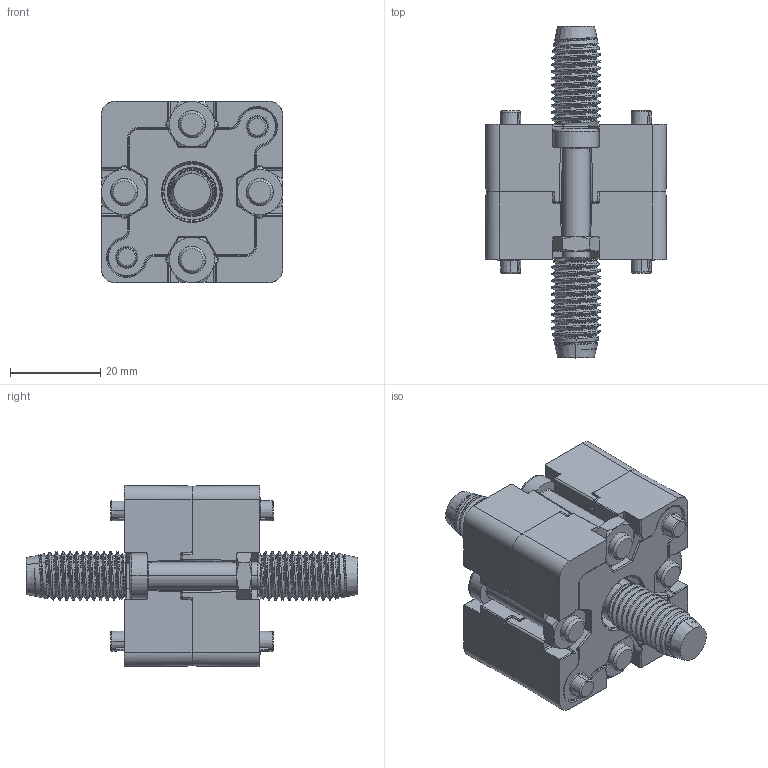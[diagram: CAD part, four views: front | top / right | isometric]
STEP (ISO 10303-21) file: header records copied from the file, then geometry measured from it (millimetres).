
FILE_DESCRIPTION (( 'STEP AP214' ), '1' );
FILE_NAME ('099EA40401012RS02.STEP', '2016-02-10T14:11:20', ( '' ), ( '' ), 'SwSTEP 2.0', 'SolidWorks 2016', '' );
FILE_SCHEMA (( 'AUTOMOTIVE_DESIGN' ));
Length unit declared in the file: millimetre
Products named in the file (5): 4din439bm06m_4din439bm06m; 4din7984m0625m_Standard; 093s1230t_093 s12 30 t; 099EA40401012R_099EA40401012R; 099EA40401012RS02
Assembly tree (12 placements, depth 2):
  099EA40401012RS02
    099EA40401012R_099EA40401012R  x2
    093s1230t_093 s12 30 t  x2
    4din7984m0625m_Standard  x4
    4din439bm06m_4din439bm06m  x4
Bounding box: 40.05 x 73.4 x 40.05 mm (x, y, z)
Volume: 41185.6 mm3; surface area: 23416.7 mm2
Topology: 12 solids, 12 shells, 1806 faces, 4398 edges, 2554 vertices
Faces by surface type: cylinder 570, plane 456, bspline 286, torus 234, cone 220, sphere 40
Entity records: 31308 total; most frequent: CARTESIAN_POINT 12569, ORIENTED_EDGE 4078, DIRECTION 3643, EDGE_CURVE 2039, AXIS2_PLACEMENT_3D 1420, VERTEX_POINT 1210, EDGE_LOOP 863, ADVANCED_FACE 848
